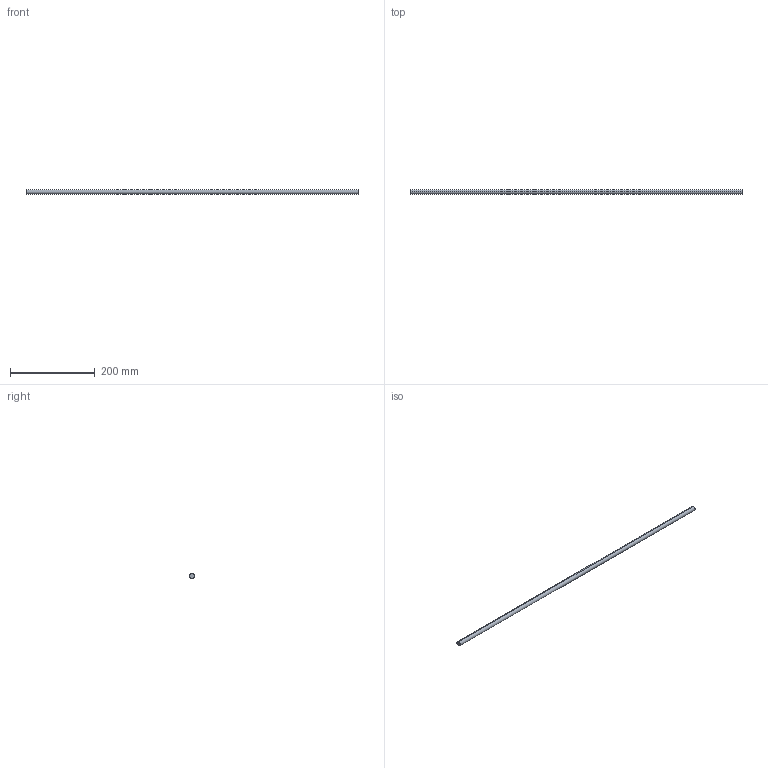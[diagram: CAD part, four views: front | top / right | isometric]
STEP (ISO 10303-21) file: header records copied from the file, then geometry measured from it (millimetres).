
FILE_DESCRIPTION (( 'STEP AP214' ), '1' );
FILE_NAME ('Querreling_Frontblende_Innenlade_KS-19_25mm-Halter_KAB-900.step', '2010-09-22T15:05:47', ( 'grass' ), ( '' ), 'SwSTEP 2.0', 'SolidWorks 2010', '' );
FILE_SCHEMA (( 'AUTOMOTIVE_DESIGN' ));
Length unit declared in the file: millimetre
Products named in the file (1): Querreling_Frontblende_Innenlade_KS-19_25mm-Halter_KAB-900
Bounding box: 784 x 11 x 11 mm (x, y, z)
Volume: 74506 mm3; surface area: 27283.2 mm2
Topology: 1 solids, 1 shells, 4 faces, 6 edges, 4 vertices
Faces by surface type: cylinder 2, plane 2
Entity records: 128 total; most frequent: DIRECTION 20, CARTESIAN_POINT 15, ORIENTED_EDGE 12, AXIS2_PLACEMENT_3D 9, EDGE_CURVE 6, VERTEX_POINT 4, FACE_OUTER_BOUND 4, CIRCLE 4
